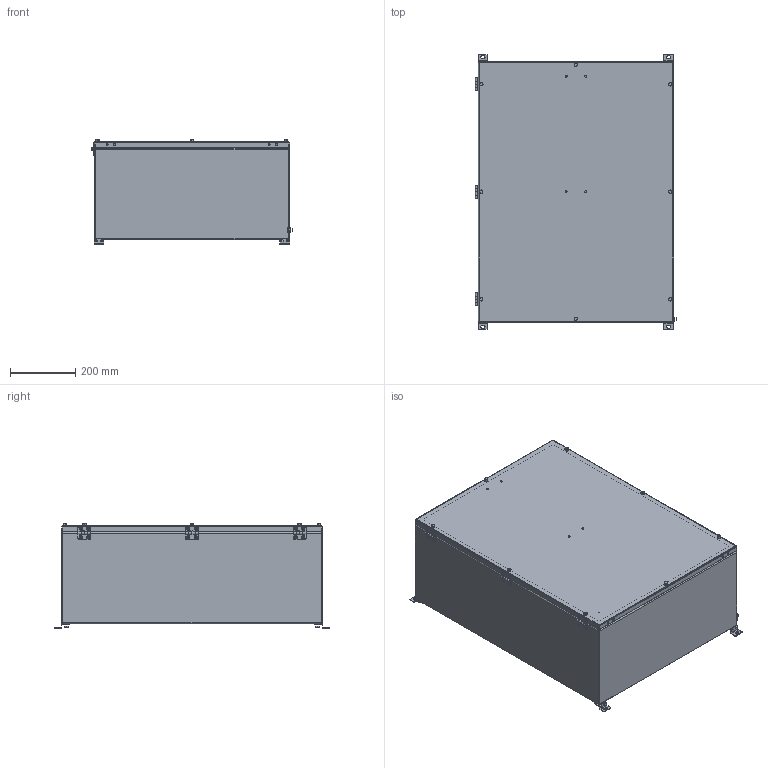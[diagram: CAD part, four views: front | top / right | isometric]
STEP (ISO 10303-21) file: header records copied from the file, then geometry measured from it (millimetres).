
FILE_DESCRIPTION((''),'2;1');
FILE_NAME('\\192.168.5.25\cortem_klient\INVENTOR БАЗА МОДЕЛЕЙ\Актуальная база моделей для отдела продаж\КСРВ-М\КСРВ-М806030_М3.stp','2019-04-09T14:47:25',('A.S.Kozlov'),(''),'Autodesk Inventor 2012','Autodesk Inventor 2012','');
FILE_SCHEMA(('CONFIG_CONTROL_DESIGN'));
Length unit declared in the file: millimetre
Products named in the file (1): КСРВ-(параметрическая модель)_Внешний контур_1
Bounding box: 619.19 x 844 x 321.7 mm (x, y, z)
Surface area: 2361013.8 mm2 (no closed solid volume)
Topology: 0 solids, 90 shells, 193 faces, 1084 edges, 956 vertices
Faces by surface type: plane 125, cylinder 58, sphere 10
Full cylindrical faces by diameter (mm): 5.9 x1, 10 x5
Entity records: 11310 total; most frequent: CARTESIAN_POINT 2319, DIRECTION 1832, ORIENTED_EDGE 1207, EDGE_CURVE 1068, VERTEX_POINT 949, AXIS2_PLACEMENT_3D 624, VECTOR 584, LINE 584
